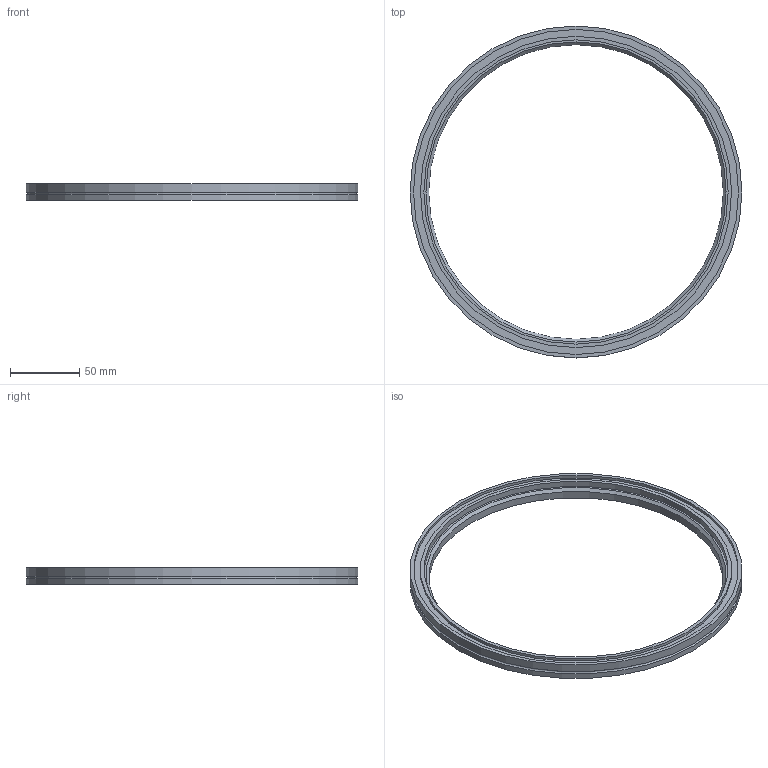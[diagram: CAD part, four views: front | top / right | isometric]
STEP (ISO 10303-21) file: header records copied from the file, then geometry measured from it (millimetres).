
FILE_DESCRIPTION( ( 'Unknown' ), '1' );
FILE_NAME( 'X:/Daten ( aktueller Bestand )/Projekte und Zeichnungen/Solid Edge/10 ISO-K Bauteile/ISO-K-Anschweißflansch/6514.stp', 'Unknown', ( 'Unknown' ), ( 'Unknown' ), 'XStep 1.0', 'Unknown', ' ' );
FILE_SCHEMA( ( 'automotive_design' ) );
Length unit declared in the file: millimetre
Products named in the file (1): 1
Bounding box: 240 x 240 x 12 mm (x, y, z)
Volume: 94809.5 mm3; surface area: 39348.7 mm2
Topology: 1 solids, 1 shells, 13 faces, 21 edges, 13 vertices
Faces by surface type: cylinder 6, plane 5, cone 1, torus 1
Full cylindrical faces by diameter (mm): 213 x1, 220 x1, 225 x1, 235 x1, 240 x2
Entity records: 388 total; most frequent: DIRECTION 54, CARTESIAN_POINT 40, AXIS2_PLACEMENT_3D 27, EDGE_LOOP 26, ORIENTED_EDGE 26, FACE_OUTER_BOUND 20, STYLED_ITEM 13, PRESENTATION_STYLE_ASSIGNMENT 13
